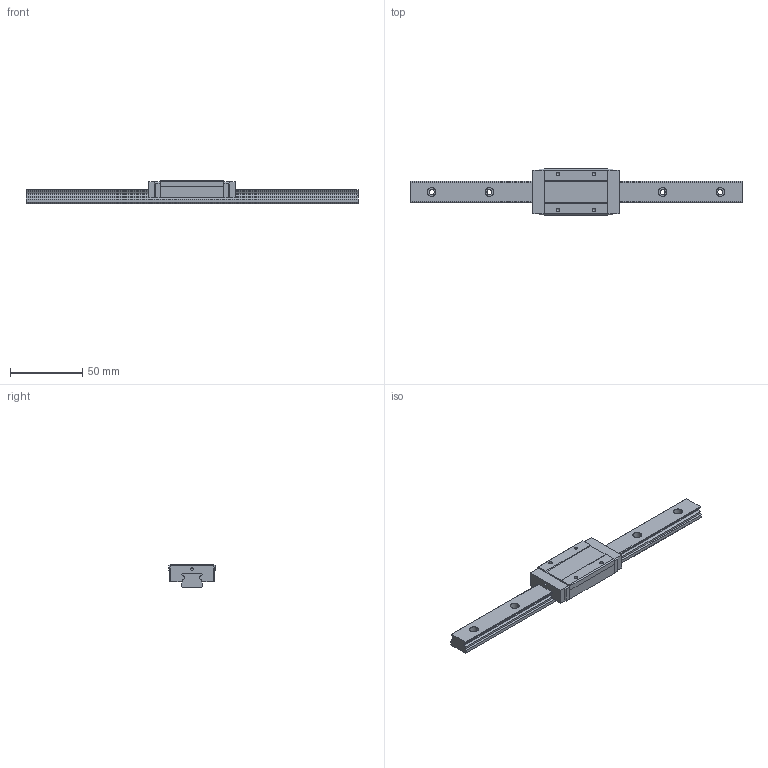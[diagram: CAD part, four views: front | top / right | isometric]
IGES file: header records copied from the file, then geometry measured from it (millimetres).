
Global section: file name: No Iges File Name specified; native system: AutoDesk Inventor R11.0; preprocessor: AutoDesk Inventor Iges Exporter R11.0; author: No Author specified; organization: No Organization specified; date: 20150221.131438; units: millimetre
Bounding box: 230 x 32 x 16 mm (x, y, z)
Surface area: 19742.2 mm2 (no closed solid volume)
Topology: 0 solids, 0 shells, 132 faces, 857 edges, 849 vertices
Faces by surface type: bspline 132
